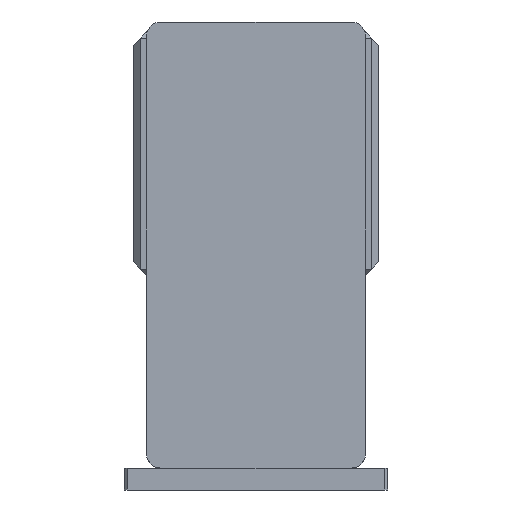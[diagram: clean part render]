
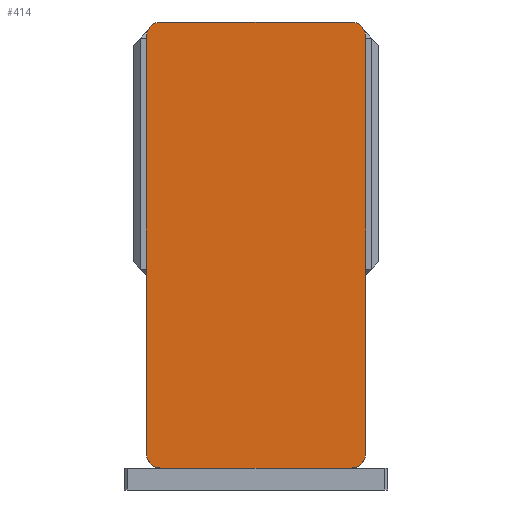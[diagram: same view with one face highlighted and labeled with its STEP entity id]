
A CAD part, left-side view. The second image highlights one B-rep face of the part: STEP entity #414.
In plain terms, the highlighted planar face has unit normal (-1, 0, 0) as drawn and (0, 0, 1) by its records, which use the part's own axes.
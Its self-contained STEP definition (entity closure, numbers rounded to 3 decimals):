
#414 = ADVANCED_FACE ( 'NONE', ( #6218 ), #15113, .T. ) ;
#709 = DIRECTION ( 'NONE',  ( 0., 0., 1. ) ) ;
#1178 = CARTESIAN_POINT ( 'NONE',  ( 65., -152.5, 105. ) ) ;
#1714 = LINE ( 'NONE', #13614, #6508 ) ;
#1872 = CARTESIAN_POINT ( 'NONE',  ( -75., 142.5, 105. ) ) ;
#2169 = DIRECTION ( 'NONE',  ( -1., 0., 0. ) ) ;
#2302 = ORIENTED_EDGE ( 'NONE', *, *, #18746, .T. ) ;
#2674 = ORIENTED_EDGE ( 'NONE', *, *, #22076, .T. ) ;
#2855 = DIRECTION ( 'NONE',  ( 0., -1., 0. ) ) ;
#3143 = AXIS2_PLACEMENT_3D ( 'NONE', #17781, #7055, #19575 ) ;
#4202 = CARTESIAN_POINT ( 'NONE',  ( -65., 152.5, 105. ) ) ;
#5126 = VERTEX_POINT ( 'NONE', #5197 ) ;
#5197 = CARTESIAN_POINT ( 'NONE',  ( 65., 152.5, 105. ) ) ;
#5671 = LINE ( 'NONE', #11189, #18286 ) ;
#6218 = FACE_OUTER_BOUND ( 'NONE', #20338, .T. ) ;
#6508 = VECTOR ( 'NONE', #2855, 1000. ) ;
#6725 = EDGE_CURVE ( 'NONE', #8656, #17145, #5671, .T. ) ;
#6989 = EDGE_CURVE ( 'NONE', #8402, #13557, #1714, .T. ) ;
#7055 = DIRECTION ( 'NONE',  ( 0., 0., 1. ) ) ;
#7578 = VECTOR ( 'NONE', #2169, 1000. ) ;
#8283 = VECTOR ( 'NONE', #8912, 1000. ) ;
#8402 = VERTEX_POINT ( 'NONE', #1872 ) ;
#8550 = EDGE_CURVE ( 'NONE', #5126, #12732, #21847, .T. ) ;
#8656 = VERTEX_POINT ( 'NONE', #20363 ) ;
#8910 = ORIENTED_EDGE ( 'NONE', *, *, #6989, .T. ) ;
#8912 = DIRECTION ( 'NONE',  ( 1., 0., 0. ) ) ;
#9312 = VERTEX_POINT ( 'NONE', #14653 ) ;
#9315 = DIRECTION ( 'NONE',  ( 0., 0., 1. ) ) ;
#9399 = LINE ( 'NONE', #17857, #8283 ) ;
#9961 = DIRECTION ( 'NONE',  ( 0., 0., 1. ) ) ;
#11189 = CARTESIAN_POINT ( 'NONE',  ( 75., 152.5, 105. ) ) ;
#11467 = CARTESIAN_POINT ( 'NONE',  ( -65., 142.5, 105. ) ) ;
#12180 = CIRCLE ( 'NONE', #21178, 10. ) ;
#12391 = ORIENTED_EDGE ( 'NONE', *, *, #18626, .T. ) ;
#12466 = CIRCLE ( 'NONE', #3143, 10. ) ;
#12578 = EDGE_CURVE ( 'NONE', #13557, #9312, #23226, .T. ) ;
#12732 = VERTEX_POINT ( 'NONE', #4202 ) ;
#13219 = CARTESIAN_POINT ( 'NONE',  ( 75., 142.5, 105. ) ) ;
#13273 = DIRECTION ( 'NONE',  ( 1., 0., 0. ) ) ;
#13557 = VERTEX_POINT ( 'NONE', #18620 ) ;
#13595 = DIRECTION ( 'NONE',  ( 0., 0., 1. ) ) ;
#13614 = CARTESIAN_POINT ( 'NONE',  ( -75., 152.5, 105. ) ) ;
#14323 = AXIS2_PLACEMENT_3D ( 'NONE', #22990, #13595, #17438 ) ;
#14653 = CARTESIAN_POINT ( 'NONE',  ( -65., -152.5, 105. ) ) ;
#14754 = CARTESIAN_POINT ( 'NONE',  ( -75., 152.5, 105. ) ) ;
#15113 = PLANE ( 'NONE',  #14323 ) ;
#15941 = VERTEX_POINT ( 'NONE', #1178 ) ;
#16693 = CIRCLE ( 'NONE', #22789, 10. ) ;
#16737 = ORIENTED_EDGE ( 'NONE', *, *, #12578, .T. ) ;
#17145 = VERTEX_POINT ( 'NONE', #13219 ) ;
#17438 = DIRECTION ( 'NONE',  ( 1., 0., 0. ) ) ;
#17781 = CARTESIAN_POINT ( 'NONE',  ( 65., 142.5, 105. ) ) ;
#17857 = CARTESIAN_POINT ( 'NONE',  ( -75., -152.5, 105. ) ) ;
#18286 = VECTOR ( 'NONE', #18335, 1000. ) ;
#18335 = DIRECTION ( 'NONE',  ( 0., 1., 0. ) ) ;
#18620 = CARTESIAN_POINT ( 'NONE',  ( -75., -142.5, 105. ) ) ;
#18626 = EDGE_CURVE ( 'NONE', #9312, #15941, #9399, .T. ) ;
#18746 = EDGE_CURVE ( 'NONE', #12732, #8402, #16693, .T. ) ;
#19575 = DIRECTION ( 'NONE',  ( 1., 0., 0. ) ) ;
#19834 = ORIENTED_EDGE ( 'NONE', *, *, #22464, .T. ) ;
#20063 = CARTESIAN_POINT ( 'NONE',  ( -65., -142.5, 105. ) ) ;
#20338 = EDGE_LOOP ( 'NONE', ( #12391, #19834, #20992, #2674, #21463, #2302, #8910, #16737 ) ) ;
#20363 = CARTESIAN_POINT ( 'NONE',  ( 75., -142.5, 105. ) ) ;
#20695 = CARTESIAN_POINT ( 'NONE',  ( 65., -142.5, 105. ) ) ;
#20992 = ORIENTED_EDGE ( 'NONE', *, *, #6725, .T. ) ;
#21178 = AXIS2_PLACEMENT_3D ( 'NONE', #20695, #9961, #22496 ) ;
#21463 = ORIENTED_EDGE ( 'NONE', *, *, #8550, .T. ) ;
#21841 = DIRECTION ( 'NONE',  ( 1., 0., 0. ) ) ;
#21847 = LINE ( 'NONE', #14754, #7578 ) ;
#22076 = EDGE_CURVE ( 'NONE', #17145, #5126, #12466, .T. ) ;
#22077 = AXIS2_PLACEMENT_3D ( 'NONE', #20063, #9315, #21841 ) ;
#22464 = EDGE_CURVE ( 'NONE', #15941, #8656, #12180, .T. ) ;
#22496 = DIRECTION ( 'NONE',  ( 1., 0., 0. ) ) ;
#22789 = AXIS2_PLACEMENT_3D ( 'NONE', #11467, #709, #13273 ) ;
#22990 = CARTESIAN_POINT ( 'NONE',  ( 0., 0., 105. ) ) ;
#23226 = CIRCLE ( 'NONE', #22077, 10. ) ;
